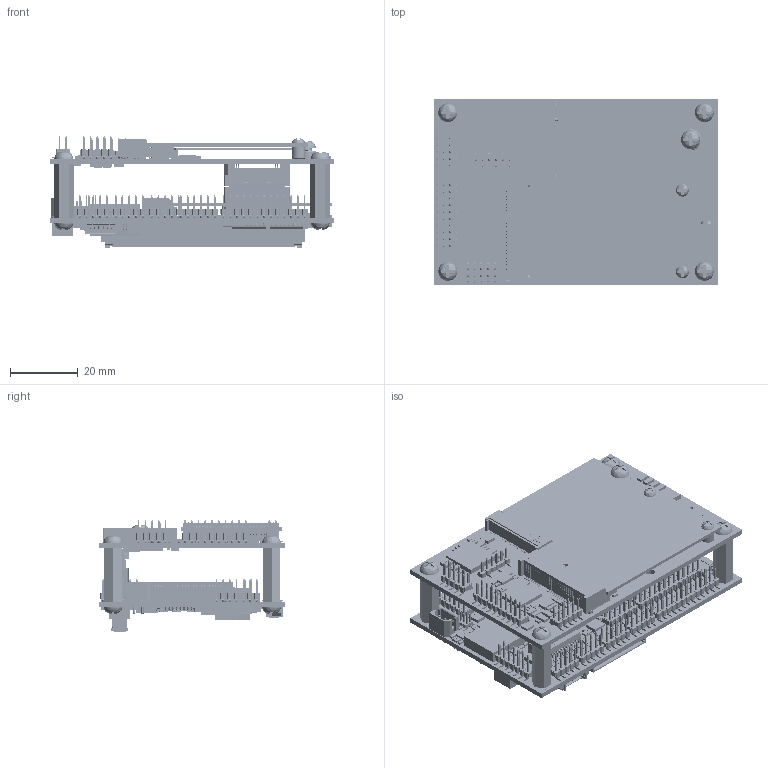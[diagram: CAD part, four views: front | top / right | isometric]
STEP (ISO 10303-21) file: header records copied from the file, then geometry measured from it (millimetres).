
FILE_DESCRIPTION((''),'2;1');
FILE_NAME('7180881_ZETA_BOARD_ASSY_ASM','2017-12-28T',('user'),(''),'PRO/ENGINEER BY PARAMETRIC TECHNOLOGY CORPORATION, 2012130','PRO/ENGINEER BY PARAMETRIC TECHNOLOGY CORPORATION, 2012130','');
FILE_SCHEMA(('CONFIG_CONTROL_DESIGN'));
Products named in the file (196): 7140880_ZETA_BASEBOARD_REVA; VDFN_6X5; DIO_SMB; RES2512; IND_1P7_2L; FUSEM_1P8X01_P75; IND_CM2021Y330R-10; ASA-24-000MHZ-L-T; TSSOP8_256_177X122X433; DLW21SN900HQ2L; VSSOP-8; DHVQFN24-3P6X5P6_24P; VQFN_0P5_24L; TQFN20_4X4_0P5; 20_VQFN; SOT_533_H_6_P5; SOIC_1P27_5P2_1P75_8P; FUSEM_2P3X1P5XP75; SOT23_P95_2P7_5P; SOT65P210X110-5N; OSCL_083P_128X100_035_4P; ABM8G-25000MHZ-18-D2Y-T; SOT-23_3L; LTST-C190GKT; QFN50P4-5X2-5X1-20P; IND-74438356015; BGA-88-15X11_25; CAP6032_TANT; SOP65P490X110-8N; CAP1206; 10WDFN; SOT_1P9_2_1P1_3P; HVQFN24_4X4; 6-DFN; FB0603; FB0402; CAP0805; CAP0603; CAP0402; RES0402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
Assembly tree (1383 placements, depth 5):
  7180881_ZETA_BOARD_ASSY_ASM
    7140880_ZETA_BASEBOARD_REVA_ASM
      7140880_ZETA_BASEBOARD_REVA
      VDFN_6X5
      DIO_SMB
      RES2512
      IND_1P7_2L  x2
      FUSEM_1P8X01_P75
      IND_CM2021Y330R-10
      ASA-24-000MHZ-L-T
      TSSOP8_256_177X122X433
      DLW21SN900HQ2L  x5
      VSSOP-8
      DHVQFN24-3P6X5P6_24P  x2
      VQFN_0P5_24L
      TQFN20_4X4_0P5  x2
      20_VQFN
      SOT_533_H_6_P5  x3
      SOIC_1P27_5P2_1P75_8P
      FUSEM_2P3X1P5XP75  x5
      SOT23_P95_2P7_5P
      SOT65P210X110-5N
      OSCL_083P_128X100_035_4P
      ABM8G-25000MHZ-18-D2Y-T  x2
      SOT-23_3L  x7
      LTST-C190GKT  x13
      QFN50P4-5X2-5X1-20P
      IND-74438356015  x2
      BGA-88-15X11_25
      CAP6032_TANT
      SOP65P490X110-8N
      CAP1206  x6
      10WDFN  x2
      SOT_1P9_2_1P1_3P
      HVQFN24_4X4  x2
      6-DFN  x4
      FB0603  x16
      FB0402  x2
      CAP0805  x20
      CAP0603  x50
      CAP0402  x191
      RES0402  x304
      RES1206
      MH-PAD250DRIL125PL
      QFN40_5X5_04MM
      DFN_05_2X2_8P  x3
      TP_SMD_CIR_30  x52
      FPGA_CPG236_10X10_0P5
      LTST-C191TBKT
      SLP2510P8_0260X0110_8P  x5
      SOD-323  x3
      TSSOP_0P65_16L
      RES0603  x2
      XSON6_1P05X1P05XP5  x11
      INPAQ_MCM2012B900GBE  x4
      RP_0402_8L  x9
      7140880_ZETA_BB_REVA_TOP_02NOV
      2X5_HEADER_ASM  x7
        ASM0002_ASM
          62101021921
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Bounding box: 84 x 55.13 x 33.25 mm (x, y, z)
Volume: 52944.7 mm3; surface area: 94275.7 mm2
Topology: 1478 solids, 1512 shells, 31920 faces, 80605 edges, 51908 vertices
Faces by surface type: plane 21581, cylinder 8198, bspline 1233, torus 540, sphere 136, cone 124, extrusion 108
Entity records: 572919 total; most frequent: CARTESIAN_POINT 129013, DIRECTION 93177, ORIENTED_EDGE 88894, EDGE_CURVE 44447, AXIS2_PLACEMENT_3D 31368, VECTOR 30441, LINE 30386, VERTEX_POINT 29036
